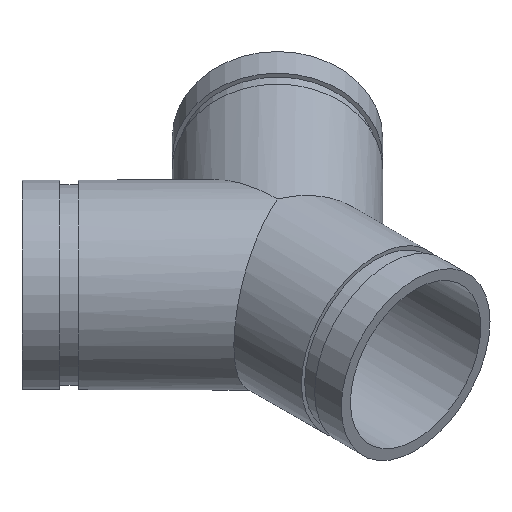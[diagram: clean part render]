
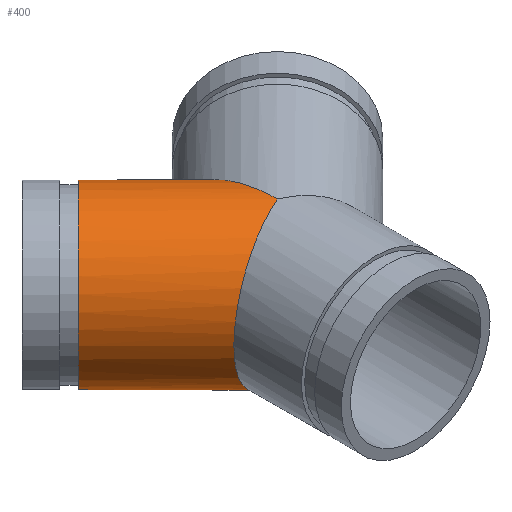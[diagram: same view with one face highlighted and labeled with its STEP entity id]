
A CAD part, isometric view. The second image highlights one B-rep face of the part: STEP entity #400.
In plain terms, the highlighted cylindrical face has radius 44.45 mm (diameter 88.9 mm), a full revolution.
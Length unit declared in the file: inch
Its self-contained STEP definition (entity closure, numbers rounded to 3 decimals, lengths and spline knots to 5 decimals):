
#76=FACE_OUTER_BOUND('',#103,.T.);
#103=EDGE_LOOP('',(#314,#315,#316,#317,#318,#319,#320,#321));
#118=ELLIPSE('',#470,2.47487,1.75);
#119=ELLIPSE('',#471,1.89419,1.75);
#120=ELLIPSE('',#472,1.89419,1.75);
#121=ELLIPSE('',#473,2.47487,1.75);
#131=LINE('',#735,#143);
#143=VECTOR('',#595,1.75);
#156=CIRCLE('',#446,1.75);
#157=CIRCLE('',#447,1.75);
#186=VERTEX_POINT('',#686);
#187=VERTEX_POINT('',#687);
#202=VERTEX_POINT('',#730);
#203=VERTEX_POINT('',#731);
#204=VERTEX_POINT('',#733);
#205=VERTEX_POINT('',#736);
#223=EDGE_CURVE('',#186,#187,#156,.T.);
#224=EDGE_CURVE('',#187,#186,#157,.T.);
#243=EDGE_CURVE('',#202,#203,#118,.T.);
#244=EDGE_CURVE('',#204,#202,#119,.T.);
#245=EDGE_CURVE('',#204,#187,#131,.T.);
#246=EDGE_CURVE('',#205,#204,#120,.T.);
#247=EDGE_CURVE('',#203,#205,#121,.T.);
#314=ORIENTED_EDGE('',*,*,#243,.F.);
#315=ORIENTED_EDGE('',*,*,#244,.F.);
#316=ORIENTED_EDGE('',*,*,#245,.T.);
#317=ORIENTED_EDGE('',*,*,#224,.T.);
#318=ORIENTED_EDGE('',*,*,#223,.T.);
#319=ORIENTED_EDGE('',*,*,#245,.F.);
#320=ORIENTED_EDGE('',*,*,#246,.F.);
#321=ORIENTED_EDGE('',*,*,#247,.F.);
#359=CYLINDRICAL_SURFACE('',#469,1.75);
#400=ADVANCED_FACE('',(#76),#359,.T.);
#446=AXIS2_PLACEMENT_3D('',#688,#539,#540);
#447=AXIS2_PLACEMENT_3D('',#689,#541,#542);
#469=AXIS2_PLACEMENT_3D('',#729,#589,#590);
#470=AXIS2_PLACEMENT_3D('',#732,#591,#592);
#471=AXIS2_PLACEMENT_3D('',#734,#593,#594);
#472=AXIS2_PLACEMENT_3D('',#737,#596,#597);
#473=AXIS2_PLACEMENT_3D('',#738,#598,#599);
#539=DIRECTION('center_axis',(0.707,-0.707,0.));
#540=DIRECTION('ref_axis',(0.707,0.707,0.));
#541=DIRECTION('center_axis',(0.707,-0.707,0.));
#542=DIRECTION('ref_axis',(0.707,0.707,0.));
#589=DIRECTION('center_axis',(0.707,-0.707,0.));
#590=DIRECTION('ref_axis',(0.707,0.707,0.));
#591=DIRECTION('center_axis',(1.,0.,0.));
#592=DIRECTION('ref_axis',(0.,1.,0.));
#593=DIRECTION('center_axis',(0.383,-0.924,0.));
#594=DIRECTION('ref_axis',(0.924,0.383,0.));
#595=DIRECTION('',(-0.707,0.707,0.));
#596=DIRECTION('center_axis',(0.383,-0.924,0.));
#597=DIRECTION('ref_axis',(0.924,0.383,0.));
#598=DIRECTION('center_axis',(1.,0.,0.));
#599=DIRECTION('ref_axis',(0.,1.,0.));
#686=CARTESIAN_POINT('',(-1.1045,3.57937,0.));
#687=CARTESIAN_POINT('',(-3.57937,1.1045,0.));
#688=CARTESIAN_POINT('Origin',(-2.34194,2.34194,0.));
#689=CARTESIAN_POINT('Origin',(-2.34194,2.34194,0.));
#729=CARTESIAN_POINT('Origin',(-3.0052,3.0052,0.));
#730=CARTESIAN_POINT('',(0.,0.,-1.75));
#731=CARTESIAN_POINT('',(0.,2.47487,0.));
#732=CARTESIAN_POINT('Origin',(0.,0.,
0.));
#733=CARTESIAN_POINT('',(-1.75,-0.72487,0.));
#734=CARTESIAN_POINT('Origin',(0.,0.,
0.));
#735=CARTESIAN_POINT('',(-4.24264,1.76777,0.));
#736=CARTESIAN_POINT('',(0.,0.,1.75));
#737=CARTESIAN_POINT('Origin',(0.,0.,
0.));
#738=CARTESIAN_POINT('Origin',(0.,0.,
0.));
